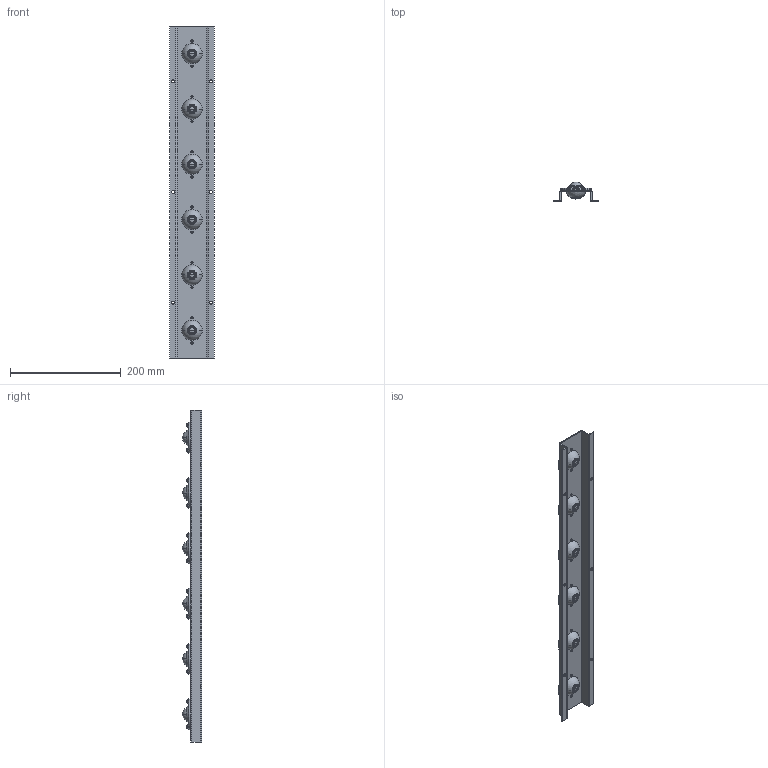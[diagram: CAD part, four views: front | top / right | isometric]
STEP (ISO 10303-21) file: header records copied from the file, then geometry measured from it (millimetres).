
FILE_DESCRIPTION (( 'STEP AP203' ), '1' );
FILE_NAME ('PVU-6.STEP', '2016-03-14T03:55:26', ( '' ), ( '' ), 'SwSTEP 2.0', 'SolidWorks 2013', '' );
FILE_SCHEMA (( 'CONFIG_CONTROL_DESIGN' ));
Length unit declared in the file: millimetre
Products named in the file (1): PVU-6
Bounding box: 80 x 35 x 600 mm (x, y, z)
Volume: 265218.7 mm3; surface area: 154709.3 mm2
Topology: 1 solids, 3 shells, 696 faces, 1824 edges, 1188 vertices
Faces by surface type: plane 312, cylinder 240, torus 84, sphere 48, cone 12
Entity records: 23245 total; most frequent: CARTESIAN_POINT 5989, ORIENTED_EDGE 3648, DIRECTION 3614, EDGE_CURVE 1824, AXIS2_PLACEMENT_3D 1465, VERTEX_POINT 1188, CIRCLE 768, EDGE_LOOP 766
